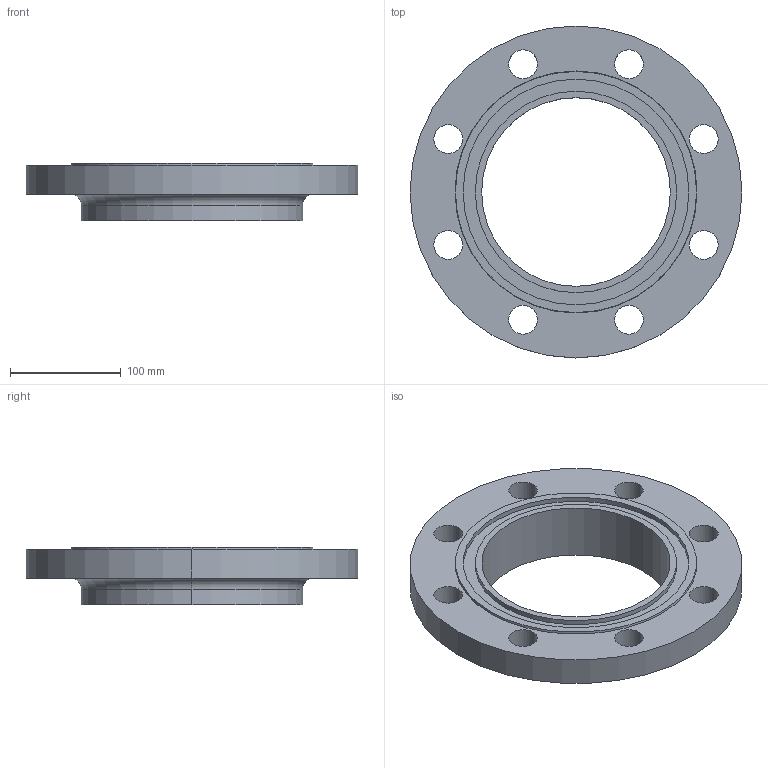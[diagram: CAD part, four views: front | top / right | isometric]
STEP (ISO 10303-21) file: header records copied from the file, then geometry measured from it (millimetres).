
FILE_DESCRIPTION (( 'STEP AP214' ), '1' );
FILE_NAME ('PN40 DN150 Type 12 - Type D Face.STEP', '2019-01-04T22:00:12', ( '' ), ( '' ), 'SwSTEP 2.0', 'SolidWorks 2019', '' );
FILE_SCHEMA (( 'AUTOMOTIVE_DESIGN' ));
Length unit declared in the file: millimetre
Products named in the file (1): PN40 DN150 Type 12 - Type D Face
Bounding box: 300 x 300 x 52 mm (x, y, z)
Volume: 1352795.3 mm3; surface area: 175596.4 mm2
Topology: 1 solids, 1 shells, 36 faces, 88 edges, 58 vertices
Faces by surface type: cylinder 26, plane 6, torus 2, cone 2
Entity records: 1166 total; most frequent: DIRECTION 222, CARTESIAN_POINT 183, ORIENTED_EDGE 176, AXIS2_PLACEMENT_3D 97, EDGE_CURVE 88, CIRCLE 60, EDGE_LOOP 58, VERTEX_POINT 58
